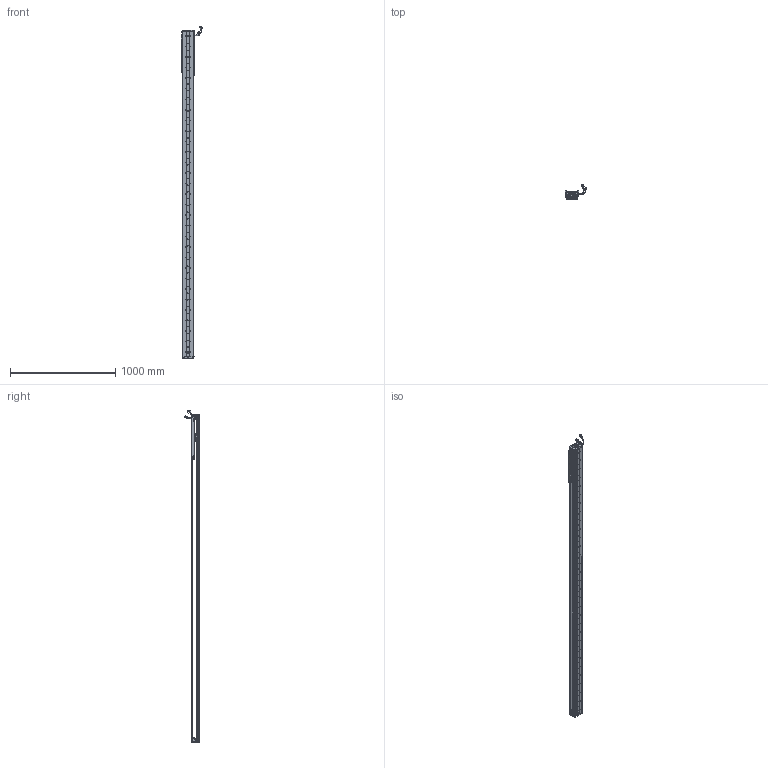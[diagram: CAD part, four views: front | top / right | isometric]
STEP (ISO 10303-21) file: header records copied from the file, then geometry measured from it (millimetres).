
FILE_DESCRIPTION (( 'STEP AP203' ), '1' );
FILE_NAME ('Z5-RY100D-1-L500-B-K.SLDASM_2650.step', '2021-05-17T03:35:20', ( '盈信电脑' ), ( '东莞市道滘镇水果街19号' ), 'SwSTEP 2.0', 'SolidWorks 2016', '' );
FILE_SCHEMA (( 'CONFIG_CONTROL_DESIGN' ));
Length unit declared in the file: millimetre
Products named in the file (36): Z-RY100D詩湍奻揤裔; Z5-RY100铝滑块（21款）; Z-100詩湍傷裔啣; SCREW-M1.6; 覜茼ん672; COVER; SCREW-M1.7; HARNESS-Part-2; SCREW-M1.7-1; Z5-RY100D-500-倰第菁釱_2650; Z5-RY100-L500詩湍90mm遵_2650; PSLH080_PSLF2; SEAL-Part-1; SCALE-Part-1; Z5-RY100D-1-L500-B-K.SLDASM_2650; Z-RY100D覜茼んえ; HOLDER0; LABEL-Part-1; SCALE-Part-2; Z-RY100D詩湍狟揤裔; SCREW-M1.6-1; 140雄赽晤鎢ん堤盄; 榋妏寠巭燃_暯_M2_2; SCREW-M1.6-2; 080黍杅芛假蚾釱21遴; COVER-Part-1; SCALE; 100-Z-臏賑輸盄裔(21遴); HARNESS-Part-1; SEAL; PBU_SHEET; LABEL; 140蚥薯蝶輸; SHIELDPLATE; SCREW-M1.6-3; HARNESS
Assembly tree (43 placements, depth 4):
  Z5-RY100D-1-L500-B-K.SLDASM_2650
    Z5-RY100D-500-倰第菁釱_2650
    Z5-RY100铝滑块（21款）
    PSLH080_PSLF2
      SCALE
        SCALE-Part-1
        SCALE-Part-2
      HARNESS
        HARNESS-Part-1
        HARNESS-Part-2
      LABEL
        LABEL-Part-1
      COVER
        COVER-Part-1
      SEAL
        SEAL-Part-1
      榋妏寠巭燃_暯_M2_2
      SHIELDPLATE
      SCREW-M1.7
      SCREW-M1.7-1
      PBU_SHEET
      SCREW-M1.6
      SCREW-M1.6-1
      SCREW-M1.6-2
      SCREW-M1.6-3
      HOLDER0
    080黍杅芛假蚾釱21遴
    Z-100詩湍傷裔啣  x2
    140蚥薯蝶輸  x2
    覜茼ん672  x3
    Z-RY100D覜茼んえ  x3
    100-Z-臏賑輸盄裔(21遴)
    140雄赽晤鎢ん堤盄
    Z5-RY100-L500詩湍90mm遵_2650
    Z-RY100D詩湍狟揤裔  x2
    Z-RY100D詩湍奻揤裔  x2
Bounding box: 205.79 x 136.11 x 3150.43 mm (x, y, z)
Volume: 5869744.3 mm3; surface area: 2286192.6 mm2
Topology: 38 solids, 38 shells, 3147 faces, 8665 edges, 5544 vertices
Faces by surface type: cylinder 1594, plane 1205, cone 226, torus 69, bspline 53
Entity records: 92503 total; most frequent: CARTESIAN_POINT 19327, DIRECTION 14991, ORIENTED_EDGE 14210, EDGE_CURVE 7105, AXIS2_PLACEMENT_3D 5668, VERTEX_POINT 4612, LINE 3655, VECTOR 3655
